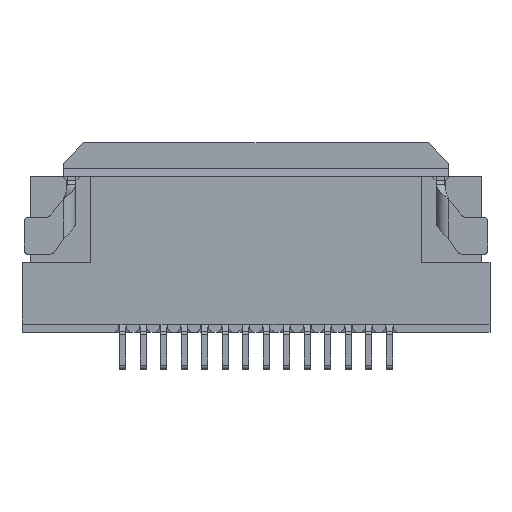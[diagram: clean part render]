
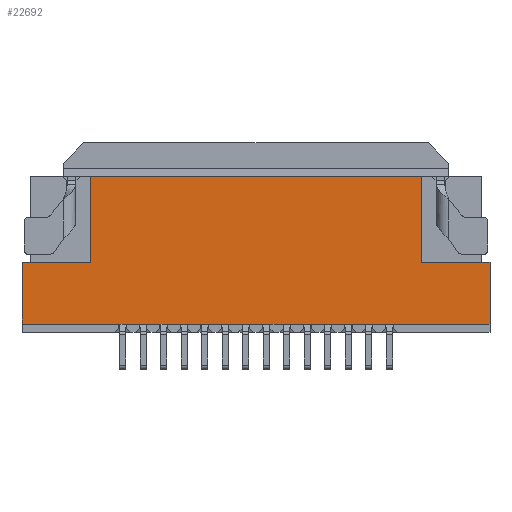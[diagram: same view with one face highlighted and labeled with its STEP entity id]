
A CAD part, front view. The second image highlights one B-rep face of the part: STEP entity #22692.
In plain terms, the highlighted planar face has unit normal (0, -1, 0).
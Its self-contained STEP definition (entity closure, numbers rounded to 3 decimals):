
#1521=DIRECTION('',(-1.,0.,0.));
#1522=VECTOR('',#1521,8.07);
#1523=CARTESIAN_POINT('',(15.285,-0.875,1.95));
#1524=LINE('',#1523,#1522);
#1569=DIRECTION('',(1.,0.,0.));
#1570=VECTOR('',#1569,11.4);
#1571=CARTESIAN_POINT('',(5.55,-0.875,-1.65));
#1572=LINE('',#1571,#1570);
#4729=DIRECTION('',(1.,0.,0.));
#4730=VECTOR('',#4729,1.665);
#4731=CARTESIAN_POINT('',(5.55,-0.875,-0.15));
#4732=LINE('',#4731,#4730);
#4745=DIRECTION('',(0.,0.,1.));
#4746=VECTOR('',#4745,2.1);
#4747=CARTESIAN_POINT('',(7.215,-0.875,-0.15));
#4748=LINE('',#4747,#4746);
#4757=DIRECTION('',(0.,0.,1.));
#4758=VECTOR('',#4757,1.5);
#4759=CARTESIAN_POINT('',(5.55,-0.875,-1.65));
#4760=LINE('',#4759,#4758);
#11431=DIRECTION('',(0.,0.,1.));
#11432=VECTOR('',#11431,1.5);
#11433=CARTESIAN_POINT('',(16.95,-0.875,-1.65));
#11434=LINE('',#11433,#11432);
#11455=DIRECTION('',(-1.,0.,0.));
#11456=VECTOR('',#11455,1.665);
#11457=CARTESIAN_POINT('',(16.95,-0.875,-0.15));
#11458=LINE('',#11457,#11456);
#11483=DIRECTION('',(0.,0.,1.));
#11484=VECTOR('',#11483,2.1);
#11485=CARTESIAN_POINT('',(15.285,-0.875,-0.15));
#11486=LINE('',#11485,#11484);
#15243=CARTESIAN_POINT('',(15.285,-0.875,-0.15));
#15244=CARTESIAN_POINT('',(15.285,-0.875,1.95));
#15245=VERTEX_POINT('',#15243);
#15246=VERTEX_POINT('',#15244);
#15247=CARTESIAN_POINT('',(16.95,-0.875,-1.65));
#15248=CARTESIAN_POINT('',(16.95,-0.875,-0.15));
#15249=VERTEX_POINT('',#15247);
#15250=VERTEX_POINT('',#15248);
#17693=CARTESIAN_POINT('',(7.215,-0.875,-0.15));
#17694=CARTESIAN_POINT('',(7.215,-0.875,1.95));
#17695=VERTEX_POINT('',#17693);
#17696=VERTEX_POINT('',#17694);
#17697=CARTESIAN_POINT('',(5.55,-0.875,-1.65));
#17698=CARTESIAN_POINT('',(5.55,-0.875,-0.15));
#17699=VERTEX_POINT('',#17697);
#17700=VERTEX_POINT('',#17698);
#22670=CARTESIAN_POINT('',(0.,-0.875,0.15));
#22671=DIRECTION('',(0.,1.,0.));
#22672=DIRECTION('',(0.,0.,-1.));
#22673=AXIS2_PLACEMENT_3D('',#22670,#22671,#22672);
#22674=PLANE('',#22673);
#22676=ORIENTED_EDGE('',*,*,#22675,.F.);
#22678=ORIENTED_EDGE('',*,*,#22677,.T.);
#22680=ORIENTED_EDGE('',*,*,#22679,.T.);
#22682=ORIENTED_EDGE('',*,*,#22681,.T.);
#22683=ORIENTED_EDGE('',*,*,#22536,.F.);
#22685=ORIENTED_EDGE('',*,*,#22684,.F.);
#22687=ORIENTED_EDGE('',*,*,#22686,.F.);
#22689=ORIENTED_EDGE('',*,*,#22688,.F.);
#22690=EDGE_LOOP('',(#22676,#22678,#22680,#22682,#22683,#22685,#22687,#22689));
#22691=FACE_OUTER_BOUND('',#22690,.F.);
#22536=EDGE_CURVE('',#15246,#17696,#1524,.T.);
#22675=EDGE_CURVE('',#17699,#15249,#1572,.T.);
#22677=EDGE_CURVE('',#17699,#17700,#4760,.T.);
#22679=EDGE_CURVE('',#17700,#17695,#4732,.T.);
#22681=EDGE_CURVE('',#17695,#17696,#4748,.T.);
#22684=EDGE_CURVE('',#15245,#15246,#11486,.T.);
#22686=EDGE_CURVE('',#15250,#15245,#11458,.T.);
#22688=EDGE_CURVE('',#15249,#15250,#11434,.T.);
#22692=ADVANCED_FACE('',(#22691),#22674,.F.);
